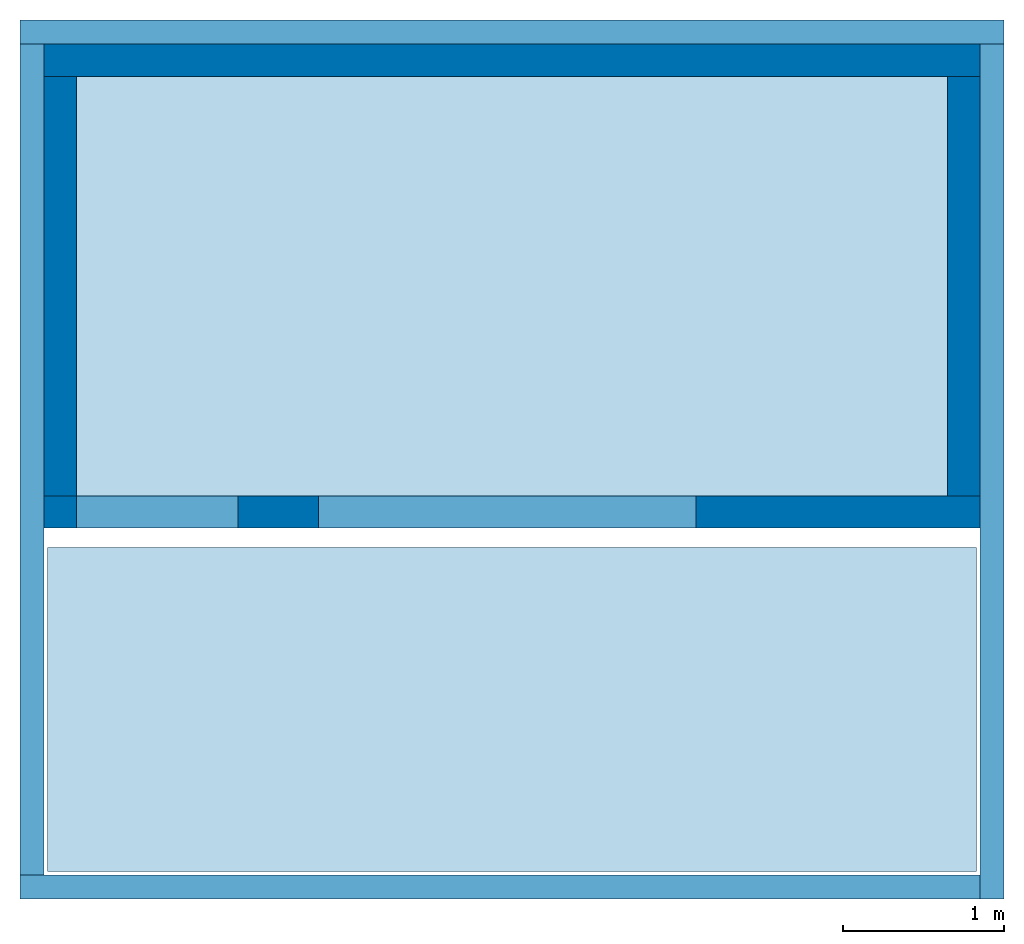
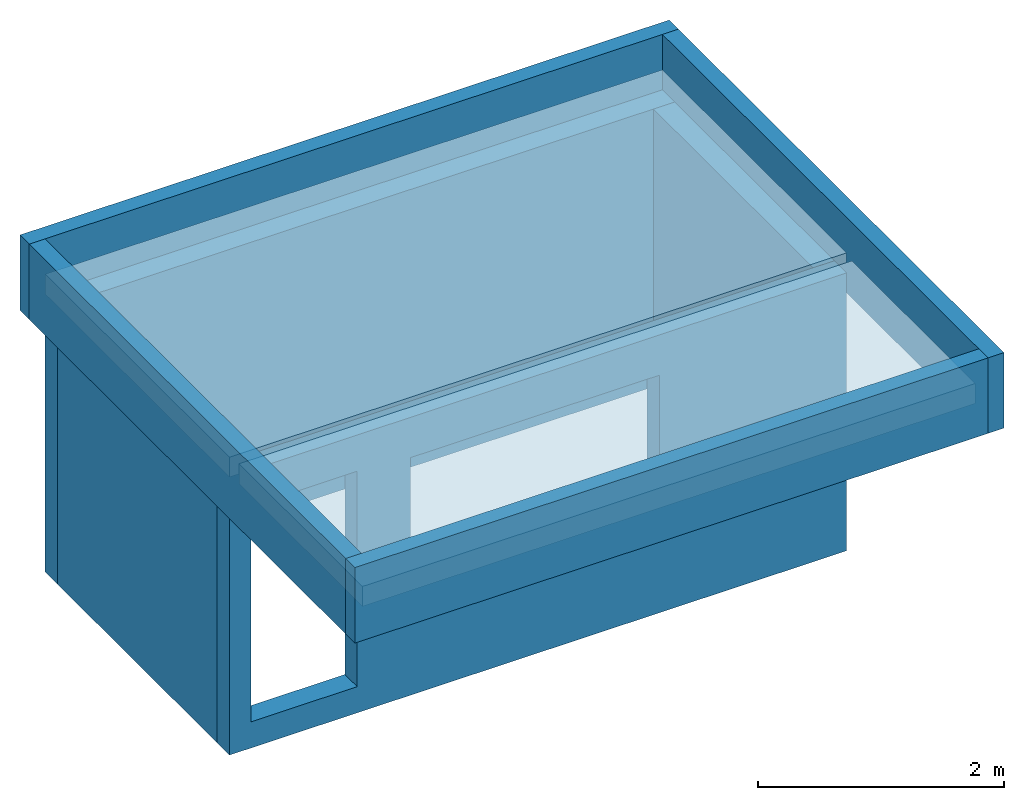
# One storey: 4 beams, 4 walls, 2 slabs, 2 openings.
"""IFC4 building model written with IfcOpenShell, lengths in metres."""

from ifc_helpers import new_model, entity, si_unit, converted_unit, derived_unit, frame, frame_2d, origin, origin_with_axes, place, context, subcontext, project, spatial, polyline, rectangle, outline, extrude, material, element, save


model = new_model("IFC4")

# Units and contexts
model_context = context("Model", 3, precision=1e-05, world=origin())
plan_context = context("Plan", 2, precision=1e-05, world=origin())
body_context = subcontext(model_context, "Body", "Model", "MODEL_VIEW")
ifc_project = project(units=[si_unit("LENGTHUNIT", "METRE"), si_unit("AREAUNIT", "SQUARE_METRE"), si_unit("VOLUMEUNIT", "CUBIC_METRE"), si_unit("MASSUNIT", "GRAM", prefix="KILO"), converted_unit("PLANEANGLEUNIT", "DEGREE", entity("IfcPlaneAngleMeasure", 0.0174532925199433), si_unit("PLANEANGLEUNIT", "RADIAN"), dimensions=[0, 0, 0, 0, 0, 0, 0]), derived_unit("THERMALTRANSMITTANCEUNIT", [(si_unit("POWERUNIT", "WATT"), 1), (si_unit("THERMODYNAMICTEMPERATUREUNIT", "KELVIN"), -1), (si_unit("LENGTHUNIT", "METRE"), -2)]), derived_unit("VOLUMETRICFLOWRATEUNIT", [(si_unit("LENGTHUNIT", "METRE"), 3), (converted_unit("TIMEUNIT", "hour", entity("IfcTimeMeasure", 3600.0), si_unit("TIMEUNIT", "SECOND"), dimensions=[0, 0, 1, 0, 0, 0, 0]), -1), (si_unit("LENGTHUNIT", "METRE"), -1)])], contexts=[model_context, plan_context])

# Site, building, storey
site_placement = place(None, origin())
site = spatial("IfcSite", under=ifc_project, at=site_placement, Name="Site", CompositionType="ELEMENT")
building_placement = place(site_placement, origin())
building = spatial("IfcBuilding", under=site, at=building_placement, Name="PosteGarde", CompositionType="ELEMENT")
storey_placement = place(building_placement, frame((0.0, 0.0, 0.88)))
storey = spatial("IfcBuildingStorey", under=building, at=storey_placement, Name="00-Rez", CompositionType="ELEMENT", Elevation=0.88)

# Beams
ifc_material_1 = material(Name="Béton architectonique")
beam_1_placement = place(storey_placement, frame((84.725368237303, 5.2496098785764, 2.56), z_axis=(0.0, 0.0, 1.0), x_axis=(0.0, -1.0, 0.0)))
element("IfcBeam", 1, at=beam_1_placement, inside=storey, material=ifc_material_1, Name="Poutres Béton archi. PosteGarde", PredefinedType="NOTDEFINED", context=body_context, shape_type="SweptSolid", body=[
    extrude(rectangle(XDim=0.15, YDim=0.75, at=frame_2d((0.075, 0.375), x_axis=(1.0, 0.0))), frame((0.0, 0.0, 0.0), z_axis=(1.0, 0.0, 0.0), x_axis=(0.0, 1.0, 0.0)), (0.0, 0.0, 1.0), 5.3),
])
ifc_material_2 = material(Name="Béton architectonique")
beam_2_placement = place(storey_placement, frame((78.775368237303, 5.2496098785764, 2.56)))
element("IfcBeam", 2, at=beam_2_placement, inside=storey, material=ifc_material_2, Name="Poutres Béton archi. PosteGarde", PredefinedType="NOTDEFINED", context=body_context, shape_type="SweptSolid", body=[
    extrude(rectangle(XDim=0.15, YDim=0.75, at=frame_2d((0.075, 0.375), x_axis=(1.0, 0.0))), frame((0.0, 0.0, 0.0), z_axis=(1.0, 0.0, 0.0), x_axis=(0.0, 1.0, 0.0)), (0.0, 0.0, 1.0), 6.1),
])
ifc_material_3 = material(Name="Béton architectonique")
beam_3_placement = place(storey_placement, frame((78.925368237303, 0.0996098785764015, 2.56), z_axis=(0.0, 0.0, 1.0), x_axis=(0.0, 1.0, 0.0)))
element("IfcBeam", 3, at=beam_3_placement, inside=storey, material=ifc_material_3, Name="Poutres Béton archi. PosteGarde", PredefinedType="NOTDEFINED", context=body_context, shape_type="SweptSolid", body=[
    extrude(rectangle(XDim=0.15, YDim=0.75, at=frame_2d((0.075, 0.375), x_axis=(1.0, 0.0))), frame((0.0, 0.0, 0.0), z_axis=(1.0, 0.0, 0.0), x_axis=(0.0, 1.0, 0.0)), (0.0, 0.0, 1.0), 5.15),
])
ifc_material_4 = material(Name="Béton architectonique")
beam_4_placement = place(storey_placement, frame((84.725368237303, 0.0996098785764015, 2.56), z_axis=(0.0, 0.0, 1.0), x_axis=(-1.0, 0.0, 0.0)))
element("IfcBeam", 4, at=beam_4_placement, inside=storey, material=ifc_material_4, Name="Poutres Béton archi. PosteGarde", PredefinedType="NOTDEFINED", context=body_context, shape_type="SweptSolid", body=[
    extrude(rectangle(XDim=0.15, YDim=0.75, at=frame_2d((0.075, 0.375), x_axis=(1.0, 0.0))), frame((0.0, 0.0, 0.0), z_axis=(1.0, 0.0, 0.0), x_axis=(0.0, 1.0, 0.0)), (0.0, 0.0, 1.0), 5.95),
])

# Slabs
ifc_material_5 = material(Name="C30/37")
slab_1_placement = place(storey_placement, frame((78.925368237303, 2.2496098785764, 2.76)))
element("IfcSlab", 5, at=slab_1_placement, inside=storey, material=ifc_material_5, Name="Toiture PosteGarde", PredefinedType="FLOOR", context=body_context, shape_type="SweptSolid", body=[
    extrude(rectangle(XDim=3.0, YDim=5.8, at=frame_2d((2.9, -1.5), x_axis=(0.0, -1.0))), frame((0.0, 3.0, 0.0), z_axis=(0.0, 0.0, 1.0), x_axis=(1.0, 0.0, 0.0)), (0.0, 0.0, 1.0), 0.2),
])
ifc_material_6 = material(Name="C30/37")
slab_2_placement = place(storey_placement, frame((78.945368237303, 0.119609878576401, 2.76)))
element("IfcSlab", 6, at=slab_2_placement, inside=storey, material=ifc_material_6, Name="Auvent PosteGarde", PredefinedType="FLOOR", context=body_context, shape_type="SweptSolid", body=[
    extrude(rectangle(XDim=2.01, YDim=5.76, at=frame_2d((2.88, -1.005), x_axis=(0.0, -1.0))), frame((0.0, 2.01, 0.0), z_axis=(0.0, 0.0, 1.0), x_axis=(1.0, 0.0, 0.0)), (0.0, 0.0, 1.0), 0.2),
])

# Walls
ifc_material_7 = material(Name="C30/37")
wall_1_placement = place(storey_placement, frame((84.725368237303, 2.4496098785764, 0.0), z_axis=(0.0, 0.0, 1.0), x_axis=(0.0, 1.0, 0.0)))
element("IfcWall", 7, at=wall_1_placement, inside=storey, material=ifc_material_7, Name="Voile BA PosteGarde", context=body_context, shape_type="SweptSolid", body=[
    extrude(rectangle(XDim=2.6, YDim=0.2, at=frame_2d((1.3, 0.1), x_axis=(1.0, 0.0))), origin_with_axes(), (0.0, 0.0, 1.0), 2.76),
])
ifc_material_8 = material(Name="C30/37")
wall_2_placement = place(storey_placement, frame((84.725368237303, 5.2496098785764, 0.0), z_axis=(0.0, 0.0, 1.0), x_axis=(-1.0, 0.0, 0.0)))
element("IfcWall", 8, at=wall_2_placement, inside=storey, material=ifc_material_8, Name="Voile BA PosteGarde", context=body_context, shape_type="SweptSolid", body=[
    extrude(rectangle(XDim=5.8, YDim=0.2, at=frame_2d((2.9, 0.1), x_axis=(1.0, 0.0))), origin_with_axes(), (0.0, 0.0, 1.0), 2.76),
])
ifc_material_9 = material(Name="C30/37")
wall_3_placement = place(storey_placement, frame((78.925368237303, 5.0496098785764, 0.0), z_axis=(0.0, 0.0, 1.0), x_axis=(0.0, -1.0, 0.0)))
element("IfcWall", 9, at=wall_3_placement, inside=storey, material=ifc_material_9, Name="Voile BA PosteGarde", context=body_context, shape_type="SweptSolid", body=[
    extrude(rectangle(XDim=2.6, YDim=0.2, at=frame_2d((1.3, 0.1), x_axis=(1.0, 0.0))), origin_with_axes(), (0.0, 0.0, 1.0), 2.76),
])

# Wall, openings
ifc_material_10 = material(Name="C30/37")
wall_4_placement = place(storey_placement, frame((78.925368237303, 2.2496098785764, 0.0)))
wall_4 = element("IfcWall", 10, at=wall_4_placement, inside=storey, material=ifc_material_10, Name="Voile BA PosteGarde", context=body_context, shape_type="SweptSolid", body=[
    extrude(rectangle(XDim=5.8, YDim=0.2, at=frame_2d((2.9, 0.1), x_axis=(1.0, 0.0))), origin_with_axes(), (0.0, 0.0, 1.0), 2.76),
])
opening_1_placement = place(wall_4_placement, frame((0.2, 0.0, 0.26), z_axis=(0.0, 1.0, 0.0), x_axis=(0.0, 0.0, 1.0)))
element("IfcOpeningElement", 11, at=opening_1_placement, cuts=wall_4, Name="Baie de porte", ObjectType="Opening", context=body_context, shape_type="SweptSolid", body=[
    extrude(outline(polyline([(0.0, 1.0), (2.14, 1.0), (2.14, 0.0), (0.0, 0.0), (0.0, 1.0)])), origin_with_axes(), (0.0, 0.0, 1.0), 0.2),
])
opening_2_placement = place(wall_4_placement, frame((1.7, 0.0, 1.01), z_axis=(0.0, 1.0, 0.0), x_axis=(0.0, 0.0, 1.0)))
element("IfcOpeningElement", 12, at=opening_2_placement, cuts=wall_4, Name="Baie de fenêtre", ObjectType="Opening", context=body_context, shape_type="SweptSolid", body=[
    extrude(outline(polyline([(0.0, 2.34), (1.35, 2.34), (1.35, 0.0), (0.0, 0.0), (0.0, 2.34)])), origin_with_axes(), (0.0, 0.0, 1.0), 0.2),
])

save(model, "model.ifc")
